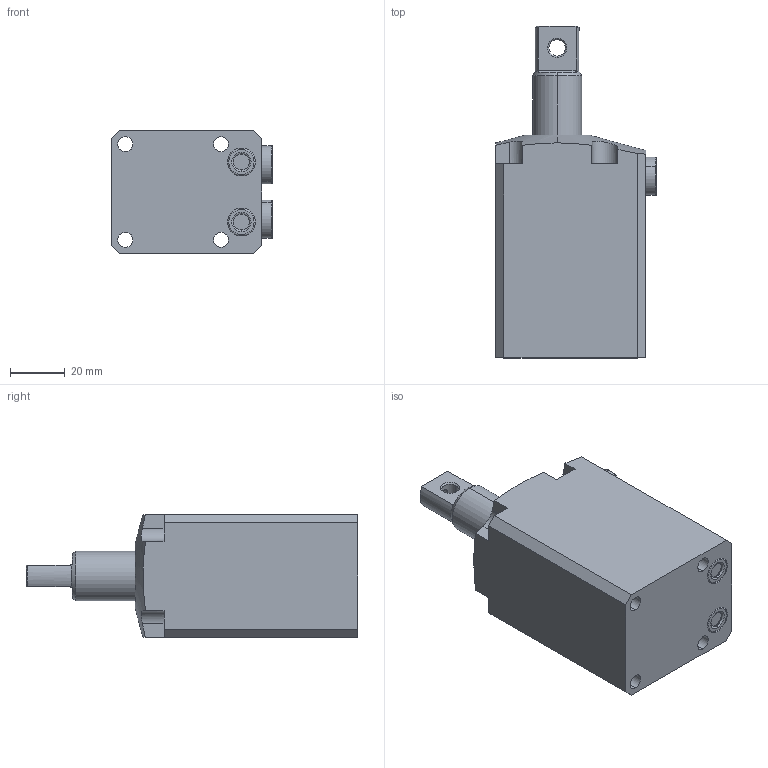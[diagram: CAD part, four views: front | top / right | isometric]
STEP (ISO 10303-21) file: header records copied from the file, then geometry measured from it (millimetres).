
FILE_DESCRIPTION(/* description */ (''),/* implementation_level */ '2;1');
FILE_NAME(/* name */ 'BRC02-P.stp',/* time_stamp */ '2025-01-05T09:12:42+08:00',/* author */ (''),/* organization */ (''),/* preprocessor_version */ 'ST-DEVELOPER v16.7',/* originating_system */ 'SIEMENS PLM Software NX 12.0',/* authorisation */ '');
FILE_SCHEMA (('AUTOMOTIVE_DESIGN { 1 0 10303 214 3 1 1 1 }'));
Length unit declared in the file: millimetre
Products named in the file (4): BRC02-P-03; BRC02-P-02; BRC02-P-01; BRC02-RP_stp
Assembly tree (4 placements, depth 2):
  BRC02-RP_stp
    BRC02-P-01
    BRC02-P-02
    BRC02-P-03  x2
Bounding box: 58.8 x 121.5 x 45 mm (x, y, z)
Volume: 189445.5 mm3; surface area: 31106.9 mm2
Topology: 6 solids, 6 shells, 148 faces, 341 edges, 214 vertices
Faces by surface type: plane 57, cylinder 51, torus 20, cone 20
Full cylindrical faces by diameter (mm): 8.5 x2
Entity records: 3915 total; most frequent: CARTESIAN_POINT 851, DIRECTION 649, ORIENTED_EDGE 586, EDGE_CURVE 293, AXIS2_PLACEMENT_3D 262, VERTEX_POINT 186, EDGE_LOOP 151, CIRCLE 131
